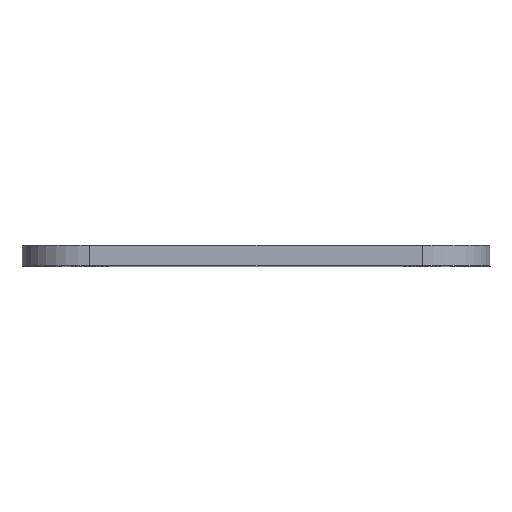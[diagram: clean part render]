
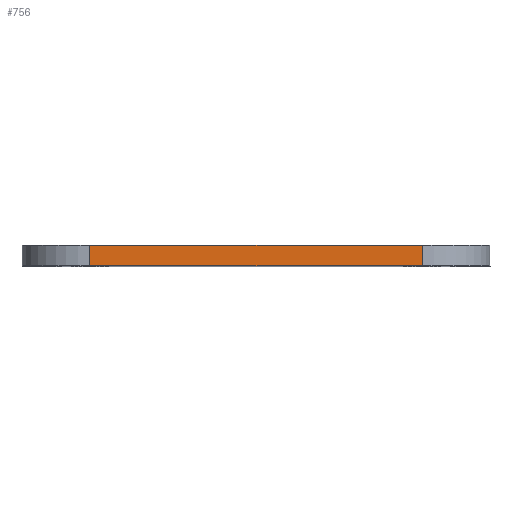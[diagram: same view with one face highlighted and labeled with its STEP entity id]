
A CAD part, top view. The second image highlights one B-rep face of the part: STEP entity #756.
In plain terms, the highlighted planar face has unit normal (0, 0, 1).
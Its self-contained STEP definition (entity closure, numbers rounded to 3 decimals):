
#46=PLANE('',#852);
#74=FACE_OUTER_BOUND('',#128,.T.);
#128=EDGE_LOOP('',(#663,#664,#665,#666));
#145=LINE('',#1115,#209);
#188=LINE('',#1263,#252);
#193=LINE('',#1292,#257);
#194=LINE('',#1293,#258);
#209=VECTOR('',#883,10.);
#252=VECTOR('',#1028,10.);
#257=VECTOR('',#1063,10.);
#258=VECTOR('',#1064,10.);
#318=VERTEX_POINT('',#1112);
#319=VERTEX_POINT('',#1114);
#372=VERTEX_POINT('',#1260);
#373=VERTEX_POINT('',#1262);
#392=EDGE_CURVE('',#318,#319,#145,.T.);
#467=EDGE_CURVE('',#372,#373,#188,.T.);
#481=EDGE_CURVE('',#318,#373,#193,.T.);
#482=EDGE_CURVE('',#319,#372,#194,.T.);
#663=ORIENTED_EDGE('',*,*,#392,.F.);
#664=ORIENTED_EDGE('',*,*,#481,.T.);
#665=ORIENTED_EDGE('',*,*,#467,.F.);
#666=ORIENTED_EDGE('',*,*,#482,.F.);
#756=ADVANCED_FACE('',(#74),#46,.T.);
#852=AXIS2_PLACEMENT_3D('',#1291,#1061,#1062);
#883=DIRECTION('',(-1.,0.,0.));
#1028=DIRECTION('',(1.,0.,0.));
#1061=DIRECTION('center_axis',(0.,0.,
1.));
#1062=DIRECTION('ref_axis',(1.,0.,0.));
#1063=DIRECTION('',(0.,1.,0.));
#1064=DIRECTION('',(0.,1.,0.));
#1112=CARTESIAN_POINT('',(696.561,53.55,63.25));
#1114=CARTESIAN_POINT('',(632.561,53.55,63.25));
#1115=CARTESIAN_POINT('',(696.561,53.55,63.25));
#1260=CARTESIAN_POINT('',(632.561,57.55,63.25));
#1262=CARTESIAN_POINT('',(696.561,57.55,63.25));
#1263=CARTESIAN_POINT('',(696.561,57.55,63.25));
#1291=CARTESIAN_POINT('Origin',(632.561,53.55,63.25));
#1292=CARTESIAN_POINT('',(696.561,53.55,63.25));
#1293=CARTESIAN_POINT('',(632.561,53.55,63.25));
